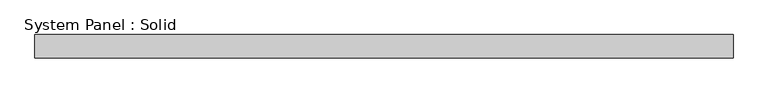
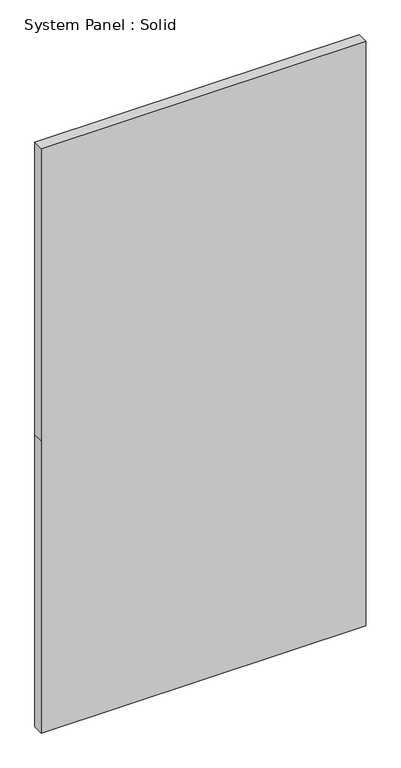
"""IFC4 building model written with IfcOpenShell, lengths in millimetres: plate geometry, System Panel : Solid."""

from ifc_helpers import new_model, si_unit, frame, origin, place, context, project, spatial, polyline, outline, extrude, source, transform, mapped, element, save


def system_panel_solid_867bf48c(model_context):
    return source(origin(), model_context, "Body", "SweptSolid", [
        extrude(outline(polyline([(0.0, -525.0000002), (0.0, 525.0000002), (1000.0, 525.0000002), (2000.0, 525.0000002), (2000.0, -525.0000002), (1000.0, -525.0000002), (0.0, -525.0000002)])), frame((0.0, -2.5, 0.0), z_axis=(0.0, 1.0, 0.0), x_axis=(0.0, 0.0, 1.0)), (0.0, 0.0, 1.0), 35.0),
    ])


if __name__ == "__main__":
    model = new_model("IFC4")
    model_context = context("Model", 3, world=origin())
    ifc_project = project(units=[si_unit("LENGTHUNIT", "METRE", prefix="MILLI")], contexts=[model_context])
    site = spatial("IfcSite", under=ifc_project)
    building = spatial("IfcBuilding", under=site)
    placement = place(None, origin())
    system_panel_solid_shape = system_panel_solid_867bf48c(model_context)
    element("IfcPlate", 1, ObjectType="System Panel : Solid", at=placement, inside=building, context=model_context, shape_type="MappedRepresentation", body=[
        mapped(system_panel_solid_shape, transform((0.0, 0.0, 0.0), x_axis=(1.0, 0.0, 0.0), y_axis=(0.0, 1.0, 0.0), z_axis=(0.0, 0.0, 1.0))),
    ])
    save(model, "model.ifc")
